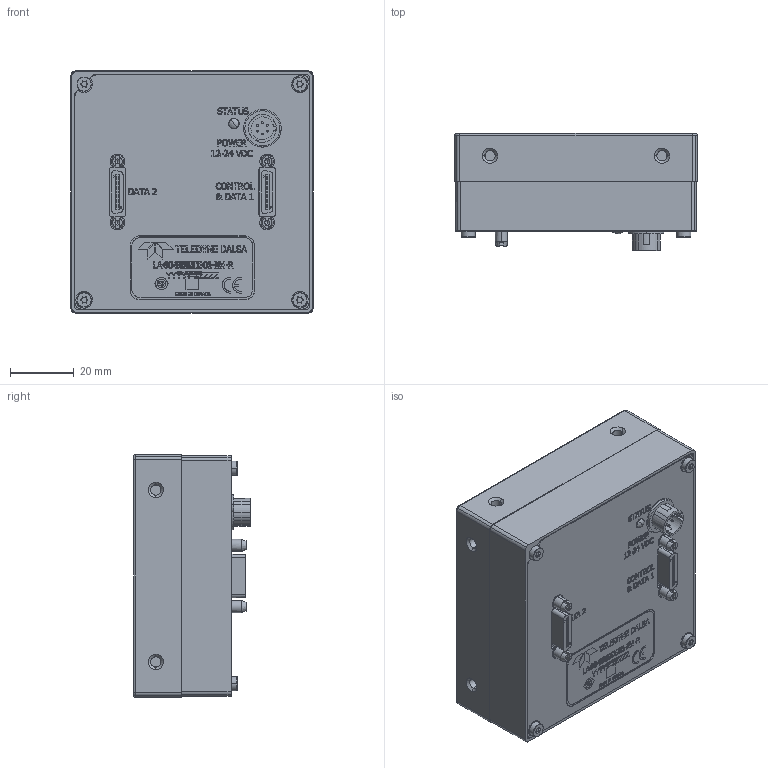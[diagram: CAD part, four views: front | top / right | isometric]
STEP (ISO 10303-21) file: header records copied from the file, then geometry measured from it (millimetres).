
FILE_DESCRIPTION(('CATIA V5 STEP Exchange'),'2;1');
FILE_NAME('D:\VIREX Dropbox\0.Product\1.DALSA\6.CADD\2-1.Linea CL\[Virex] LINEA_8k_LA-CM-08K_3D 도면\SYMPHONY 8K CL CUSTOMER DRAWING.stp','2021-03-19T08:02:08+00:00',('none'),('none'),'CATIA Version 5 Release 21 GA (IN-10)','CATIA V5 STEP AP203','none');
FILE_SCHEMA(('CONFIG_CONTROL_DESIGN'));
Products named in the file (10): SYMPHONY 8K CL CUSTOMER DRAWING; SEE TABLE; SYMPHONY 16K BACK PLATE SUBASSEMBLY; 52-00015-00; 52-00015-0; 89-00488-; 89-00488-_1; 59-S4-1015; 60-00928-; 89-00472-
Assembly tree (240 placements, depth 4):
  SYMPHONY 8K CL CUSTOMER DRAWING
    SEE TABLE
      #66
      #9026
      #9165
      #9304
      #9443
      #9582  x2
    SYMPHONY 16K BACK PLATE SUBASSEMBLY
      #10567
      #48220
      #48395
      #49046
      #49697
      #50348
      #50999
      #51217
      52-00015-00
      52-00015-0
      89-00488-
      89-00488-_1
      #53728
      59-S4-1015
        #66958
        #80505
        #80944
        #81119
        #81294  x8
        #81544
        #81719  x2
        #81909
        #82084
        #82259
        #82434
        #82609
        #82784
        #82959  x2
        #83149  x2
        #83339  x2
        #83529  x2
        #83749
        #83924
        #84099
        #84274  x8
        #84479  x6
        #84684  x2
        #84859
        #85034  x2
        #85209  x2
        #85384  x4
        #85619  x20
        #85989  x2
        #86179  x8
        #86414
        #86589  x2
        #86779  x4
        #86999  x2
        #87189
        #87364  x19
        #87734
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Bounding box: 76 x 36.72 x 76 mm (x, y, z)
Volume: 64412 mm3; surface area: 60917.3 mm2
Topology: 231 solids, 231 shells, 4304 faces, 11403 edges, 7830 vertices
Faces by surface type: plane 2944, cylinder 703, bspline 541, cone 78, torus 36, sphere 2
Entity records: 113798 total; most frequent: CARTESIAN_POINT 37416, ORIENTED_EDGE 17032, DIRECTION 11904, EDGE_CURVE 8516, VERTEX_POINT 5926, VECTOR 5071, LINE 5071, AXIS2_PLACEMENT_3D 3868
